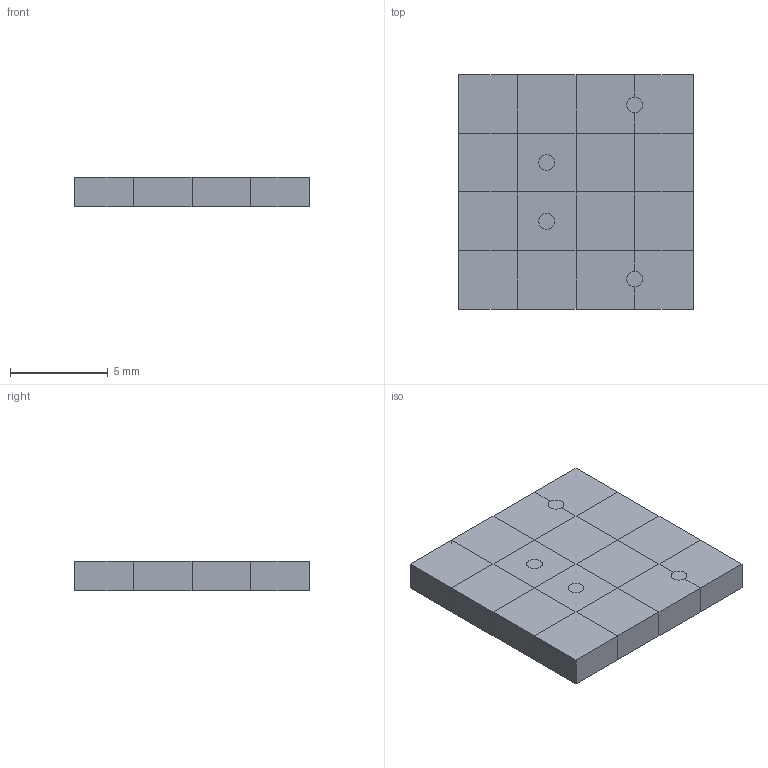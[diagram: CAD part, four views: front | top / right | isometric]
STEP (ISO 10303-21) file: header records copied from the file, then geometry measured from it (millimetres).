
FILE_DESCRIPTION(('Open CASCADE Model'),'2;1');
FILE_NAME('Open CASCADE Shape Model','2026-11-27T03:50:30',('Author'),( 'Open CASCADE'),'Open CASCADE STEP processor 7.9','Open CASCADE 7.9' ,'Unknown');
FILE_SCHEMA(('AUTOMOTIVE_DESIGN { 1 0 10303 214 1 1 1 1 }'));
Length unit declared in the file: millimetre
Products named in the file (3): manifold_S2; fluid; solid
Assembly tree (2 placements, depth 2):
  manifold_S2
    fluid
    solid
Bounding box: 12 x 12 x 1.5 mm (x, y, z)
Volume: 216 mm3; surface area: 1141.3 mm2
Topology: 2 solids, 2 shells, 744 faces, 2294 edges, 1378 vertices
Faces by surface type: plane 736, cylinder 8
Full cylindrical faces by diameter (mm): 0.8 x8
Entity records: 55038 total; most frequent: CARTESIAN_POINT 10175, DIRECTION 8132, LINE 6298, VECTOR 6298, ORIENTED_EDGE 4588, PCURVE 4588, DEFINITIONAL_REPRESENTATION 4588, EDGE_CURVE 2294
